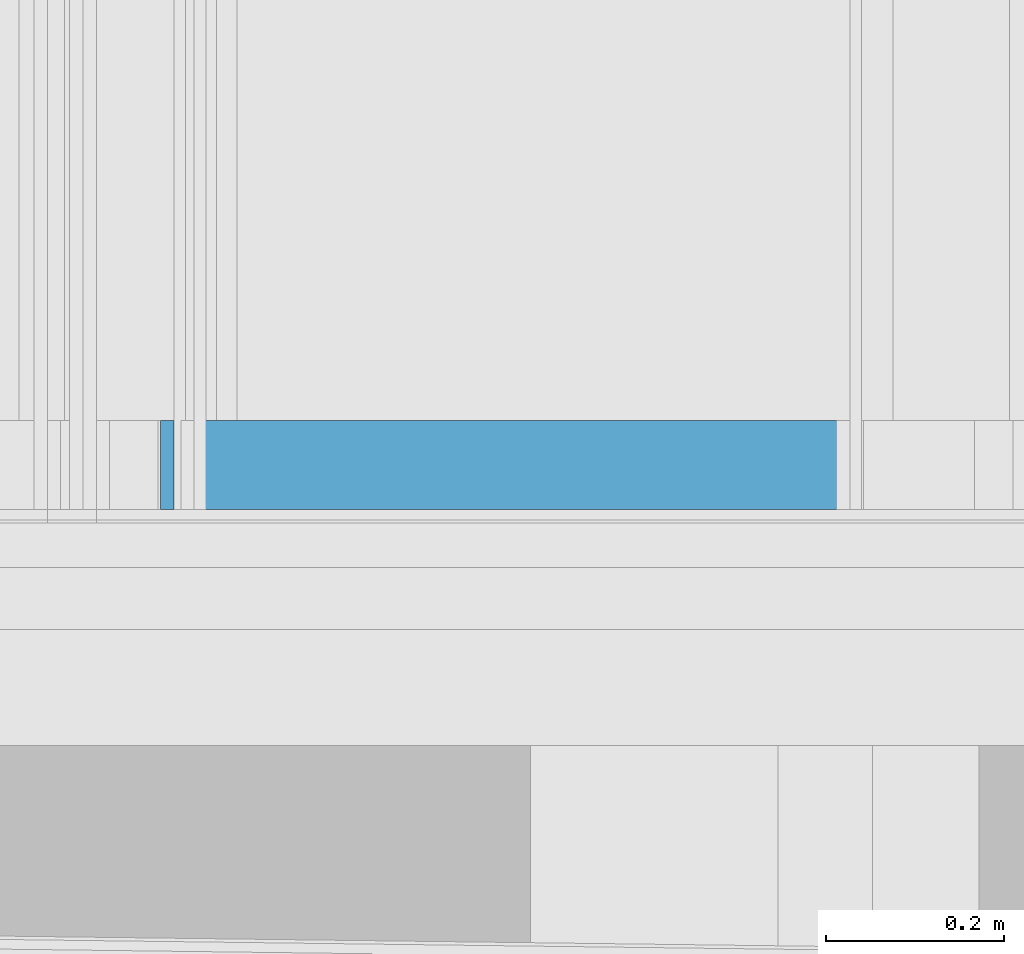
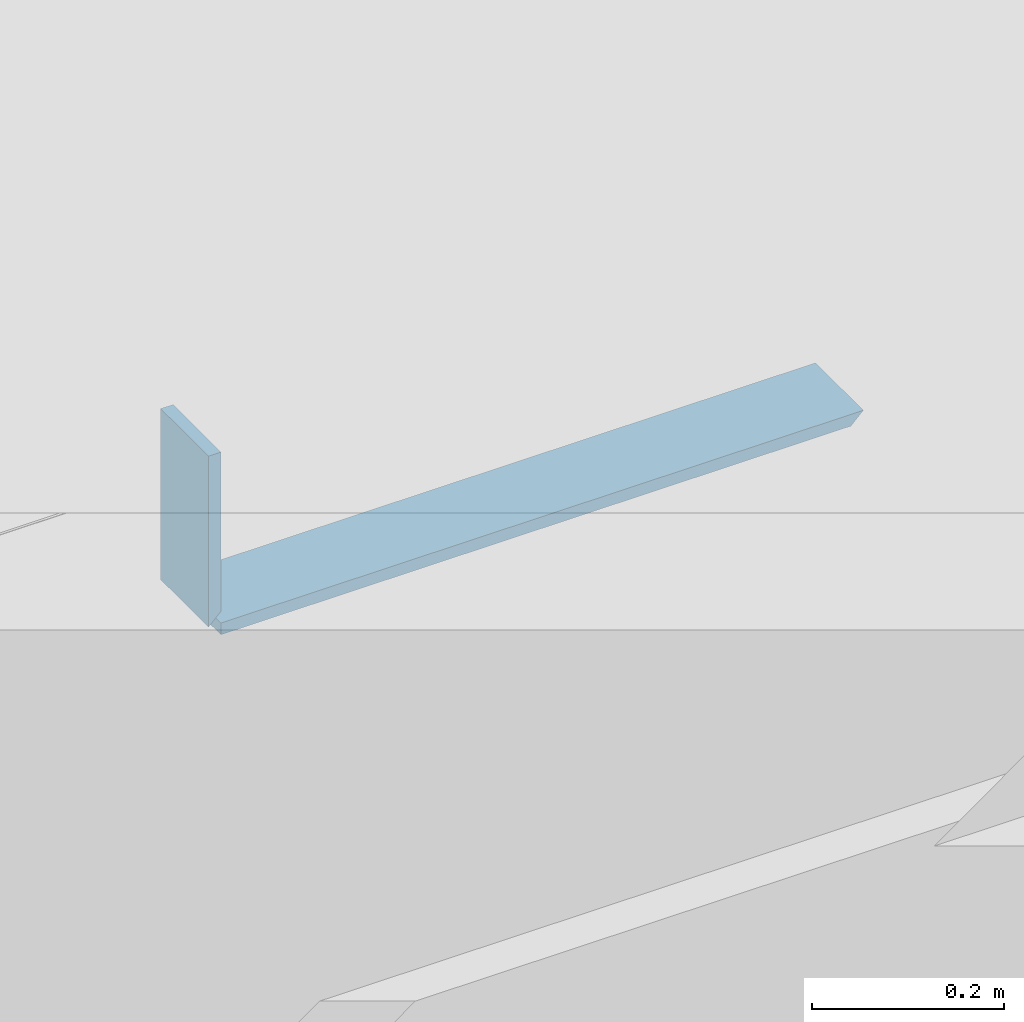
# One storey, part 177 of 583: 2 building element parts, 2 elements without a shape of their own.
"""IFC2X3 building model written with IfcOpenShell, lengths in metres."""

from ifc_helpers import new_model, entity, si_unit, converted_unit, derived_unit, money_unit, direction, frame, origin_with_axes, place, context, subcontext, project, spatial, polyline, outline, extrude, material, type_object, element, aggregate, save


model = new_model("IFC2X3")

# Units and contexts
model_context = context("Model", 3, precision=1e-05, world=origin_with_axes(), true_north=direction((0.0, 1.0)))
body_context = subcontext(model_context, "Body", "Model", "MODEL_VIEW", scale=1.0)
ifc_project = project(units=[si_unit("LENGTHUNIT", "METRE"), si_unit("AREAUNIT", "SQUARE_METRE"), si_unit("VOLUMEUNIT", "CUBIC_METRE"), si_unit("ABSORBEDDOSEUNIT", "GRAY"), si_unit("AMOUNTOFSUBSTANCEUNIT", "MOLE"), si_unit("DOSEEQUIVALENTUNIT", "SIEVERT"), si_unit("ELECTRICCAPACITANCEUNIT", "FARAD"), si_unit("ELECTRICCHARGEUNIT", "COULOMB"), si_unit("ELECTRICCONDUCTANCEUNIT", "SIEMENS"), si_unit("ELECTRICCURRENTUNIT", "AMPERE"), si_unit("ELECTRICRESISTANCEUNIT", "OHM"), si_unit("ELECTRICVOLTAGEUNIT", "VOLT"), si_unit("ENERGYUNIT", "JOULE"), si_unit("FORCEUNIT", "NEWTON"), si_unit("FREQUENCYUNIT", "HERTZ"), si_unit("ILLUMINANCEUNIT", "LUX"), si_unit("INDUCTANCEUNIT", "HENRY"), si_unit("LUMINOUSFLUXUNIT", "LUMEN"), si_unit("LUMINOUSINTENSITYUNIT", "CANDELA"), si_unit("MAGNETICFLUXDENSITYUNIT", "TESLA"), si_unit("MAGNETICFLUXUNIT", "WEBER"), si_unit("MASSUNIT", "GRAM"), converted_unit("PLANEANGLEUNIT", "degree", entity("IfcReal", 0.0174532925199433), si_unit("PLANEANGLEUNIT", "RADIAN"), dimensions=[0, 0, 0, 0, 0, 0, 0]), si_unit("POWERUNIT", "WATT"), si_unit("PRESSUREUNIT", "PASCAL"), si_unit("RADIOACTIVITYUNIT", "BECQUEREL"), si_unit("SOLIDANGLEUNIT", "STERADIAN"), si_unit("THERMODYNAMICTEMPERATUREUNIT", "KELVIN"), si_unit("TIMEUNIT", "SECOND"), derived_unit("ACCELERATIONUNIT", [(si_unit("LENGTHUNIT", "METRE"), 1), (si_unit("TIMEUNIT", "SECOND"), -2)]), derived_unit("ANGULARVELOCITYUNIT", [(converted_unit("PLANEANGLEUNIT", "degree", entity("IfcReal", 0.0174532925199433), si_unit("PLANEANGLEUNIT", "RADIAN"), dimensions=[0, 0, 0, 0, 0, 0, 0]), 1), (si_unit("TIMEUNIT", "SECOND"), -1)]), derived_unit("CURVATUREUNIT", [(converted_unit("PLANEANGLEUNIT", "degree", entity("IfcReal", 0.0174532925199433), si_unit("PLANEANGLEUNIT", "RADIAN"), dimensions=[0, 0, 0, 0, 0, 0, 0]), 1), (si_unit("LENGTHUNIT", "METRE"), -1)]), derived_unit("DYNAMICVISCOSITYUNIT", [(si_unit("PRESSUREUNIT", "PASCAL"), 1), (si_unit("TIMEUNIT", "SECOND"), 1)]), derived_unit("HEATFLUXDENSITYUNIT", [(si_unit("POWERUNIT", "WATT"), 1), (si_unit("LENGTHUNIT", "METRE"), -2)]), derived_unit("HEATINGVALUEUNIT", [(si_unit("ENERGYUNIT", "JOULE"), 1), (si_unit("MASSUNIT", "GRAM"), -1)]), derived_unit("INTEGERCOUNTRATEUNIT", [(si_unit("TIMEUNIT", "SECOND"), -1)]), derived_unit("IONCONCENTRATIONUNIT", [(si_unit("MASSUNIT", "GRAM"), 1), (si_unit("VOLUMEUNIT", "CUBIC_METRE"), -1)]), derived_unit("ISOTHERMALMOISTURECAPACITYUNIT", [(si_unit("VOLUMEUNIT", "CUBIC_METRE"), 1), (si_unit("MASSUNIT", "GRAM"), -1)]), derived_unit("KINEMATICVISCOSITYUNIT", [(si_unit("AREAUNIT", "SQUARE_METRE"), 1), (si_unit("TIMEUNIT", "SECOND"), -1)]), derived_unit("LINEARFORCEUNIT", [(si_unit("FORCEUNIT", "NEWTON"), 1), (si_unit("LENGTHUNIT", "METRE"), -1)]), derived_unit("LINEARMOMENTUNIT", [(si_unit("FORCEUNIT", "NEWTON"), 1), (si_unit("LENGTHUNIT", "METRE"), -1)]), derived_unit("LINEARSTIFFNESSUNIT", [(si_unit("FORCEUNIT", "NEWTON"), 1), (si_unit("LENGTHUNIT", "METRE"), -1)]), derived_unit("LINEARVELOCITYUNIT", [(si_unit("LENGTHUNIT", "METRE"), 1), (si_unit("TIMEUNIT", "SECOND"), -1)]), derived_unit("LUMINOUSINTENSITYDISTRIBUTIONUNIT", [(si_unit("LUMINOUSINTENSITYUNIT", "CANDELA"), 1), (si_unit("LUMINOUSFLUXUNIT", "LUMEN"), -1)]), derived_unit("MASSDENSITYUNIT", [(si_unit("MASSUNIT", "GRAM"), 1), (si_unit("VOLUMEUNIT", "CUBIC_METRE"), -1)]), derived_unit("MASSFLOWRATEUNIT", [(si_unit("MASSUNIT", "GRAM"), 1), (si_unit("TIMEUNIT", "SECOND"), -1)]), derived_unit("MASSPERLENGTHUNIT", [(si_unit("MASSUNIT", "GRAM"), 1), (si_unit("LENGTHUNIT", "METRE"), -1)]), derived_unit("MODULUSOFELASTICITYUNIT", [(si_unit("FORCEUNIT", "NEWTON"), 1), (si_unit("AREAUNIT", "SQUARE_METRE"), -1)]), derived_unit("MODULUSOFLINEARSUBGRADEREACTIONUNIT", [(si_unit("FORCEUNIT", "NEWTON"), 1), (si_unit("LENGTHUNIT", "METRE"), -2)]), derived_unit("MODULUSOFROTATIONALSUBGRADEREACTIONUNIT", [(si_unit("FORCEUNIT", "NEWTON"), 1), (si_unit("LENGTHUNIT", "METRE"), 1)]), derived_unit("MODULUSOFSUBGRADEREACTIONUNIT", [(si_unit("FORCEUNIT", "NEWTON"), 1), (si_unit("VOLUMEUNIT", "CUBIC_METRE"), -1)]), derived_unit("MOISTUREDIFFUSIVITYUNIT", [(si_unit("VOLUMEUNIT", "CUBIC_METRE"), 1), (si_unit("TIMEUNIT", "SECOND"), -1)]), derived_unit("MOLECULARWEIGHTUNIT", [(si_unit("MASSUNIT", "GRAM"), 1), (si_unit("AMOUNTOFSUBSTANCEUNIT", "MOLE"), -1)]), derived_unit("PLANARFORCEUNIT", [(si_unit("FORCEUNIT", "NEWTON"), 1), (si_unit("LENGTHUNIT", "METRE"), -2)]), derived_unit("ROTATIONALFREQUENCYUNIT", [(si_unit("TIMEUNIT", "SECOND"), -1)]), derived_unit("ROTATIONALMASSUNIT", [(si_unit("MASSUNIT", "GRAM"), 1), (si_unit("LENGTHUNIT", "METRE"), 2)]), derived_unit("ROTATIONALSTIFFNESSUNIT", [(si_unit("FORCEUNIT", "NEWTON"), 1), (si_unit("LENGTHUNIT", "METRE"), 1), (converted_unit("PLANEANGLEUNIT", "degree", entity("IfcReal", 0.0174532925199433), si_unit("PLANEANGLEUNIT", "RADIAN"), dimensions=[0, 0, 0, 0, 0, 0, 0]), -1)]), derived_unit("SECTIONAREAINTEGRALUNIT", [(si_unit("LENGTHUNIT", "METRE"), 5)]), derived_unit("SECTIONMODULUSUNIT", [(si_unit("LENGTHUNIT", "METRE"), 3)]), derived_unit("SHEARMODULUSUNIT", [(si_unit("FORCEUNIT", "NEWTON"), 1), (si_unit("AREAUNIT", "SQUARE_METRE"), -1)]), derived_unit("SOUNDPOWERUNIT", [(si_unit("ENERGYUNIT", "JOULE"), 1), (si_unit("TIMEUNIT", "SECOND"), -1)]), derived_unit("SPECIFICHEATCAPACITYUNIT", [(si_unit("FORCEUNIT", "NEWTON"), 1), (si_unit("MASSUNIT", "GRAM"), -1), (si_unit("THERMODYNAMICTEMPERATUREUNIT", "KELVIN"), -1)]), derived_unit("TEMPERATUREGRADIENTUNIT", [(si_unit("THERMODYNAMICTEMPERATUREUNIT", "KELVIN"), 1), (si_unit("LENGTHUNIT", "METRE"), -1)]), derived_unit("THERMALADMITTANCEUNIT", [(si_unit("POWERUNIT", "WATT"), 1), (si_unit("AREAUNIT", "SQUARE_METRE"), -1), (si_unit("THERMODYNAMICTEMPERATUREUNIT", "KELVIN"), -1)]), derived_unit("THERMALCONDUCTANCEUNIT", [(si_unit("POWERUNIT", "WATT"), 1), (si_unit("LENGTHUNIT", "METRE"), -1), (si_unit("THERMODYNAMICTEMPERATUREUNIT", "KELVIN"), -1)]), derived_unit("THERMALEXPANSIONCOEFFICIENTUNIT", [(si_unit("THERMODYNAMICTEMPERATUREUNIT", "KELVIN"), -1)]), derived_unit("THERMALRESISTANCEUNIT", [(si_unit("AREAUNIT", "SQUARE_METRE"), 1), (si_unit("POWERUNIT", "WATT"), -1)]), derived_unit("THERMALTRANSMITTANCEUNIT", [(si_unit("POWERUNIT", "WATT"), 1), (si_unit("AREAUNIT", "SQUARE_METRE"), -1), (si_unit("THERMODYNAMICTEMPERATUREUNIT", "KELVIN"), -1)]), derived_unit("TORQUEUNIT", [(si_unit("FORCEUNIT", "NEWTON"), 1), (si_unit("LENGTHUNIT", "METRE"), 1)]), derived_unit("VAPORPERMEABILITYUNIT", [(si_unit("MASSUNIT", "GRAM"), 1), (si_unit("TIMEUNIT", "SECOND"), -1)]), derived_unit("VOLUMETRICFLOWRATEUNIT", [(si_unit("VOLUMEUNIT", "CUBIC_METRE"), 1), (si_unit("TIMEUNIT", "SECOND"), -1)]), derived_unit("WARPINGCONSTANTUNIT", [(si_unit("LENGTHUNIT", "METRE"), 6)]), derived_unit("WARPINGMOMENTUNIT", [(si_unit("FORCEUNIT", "NEWTON"), 1), (si_unit("LENGTHUNIT", "METRE"), 2)]), money_unit("GBP")], contexts=[model_context])

# Site, building, storey
site_placement = place(None, origin_with_axes())
site = spatial("IfcSite", under=ifc_project, at=site_placement, Name="Site", CompositionType="ELEMENT")
building_placement = place(site_placement, origin_with_axes())
building = spatial("IfcBuilding", under=site, at=building_placement, Name="Building01", CompositionType="ELEMENT")
storey_placement = place(building_placement, frame((0.0, 0.0, 20.78), z_axis=(0.0, 0.0, 1.0), x_axis=(1.0, 0.0, 0.0)))
storey = spatial("IfcBuildingStorey", under=building, at=storey_placement, Name="RL", CompositionType="ELEMENT", Elevation=20.78)

# Wall, building element part
wall_type = type_object("IfcWallType", Name="SHE_A-Walls_Type06d_ExternalWallInsulation_48mm", PredefinedType="NOTDEFINED")
wall_1_placement = place(storey_placement, frame((5.34018, 5.15, 5.93), z_axis=(0.0, 1.0, 0.0), x_axis=(0.0, 0.0, 1.0)))
wall_1 = element("IfcWall", 1, at=wall_1_placement, inside=storey, type_object=wall_type, Name="6D", ObjectType="SHE_A-Walls_Type06d_ExternalWallInsulation_48mm")
ifc_material = material(Name="A_BSUK_Walls_Timber")
building_element_part_1_placement = place(wall_1_placement, origin_with_axes())
building_element_part_1 = element("IfcBuildingElementPart", 2, at=building_element_part_1_placement, material=ifc_material, Name="2", context=body_context, shape_type="SweptSolid", body=[
    extrude(outline(polyline([(-0.033, -0.048), (-0.048, -0.063), (0.17, -0.063), (0.17, -0.048), (-0.033, -0.048)])), frame((0.0, 0.0, 0.015), z_axis=(0.0, 0.0, 1.0), x_axis=(1.0, 0.0, 0.0)), (0.0, 0.0, 1.0), 0.1),
])
aggregate(wall_1, [building_element_part_1])

wall_2_placement = place(storey_placement, frame((5.30418, 5.15, 5.93), z_axis=(0.0, 1.0, 0.0), x_axis=(1.0, 0.0, 0.0)))
wall_2 = element("IfcWall", 3, at=wall_2_placement, inside=storey, type_object=wall_type, Name="6D", ObjectType="SHE_A-Walls_Type06d_ExternalWallInsulation_48mm")
building_element_part_2_placement = place(wall_2_placement, origin_with_axes())
building_element_part_2 = element("IfcBuildingElementPart", 4, at=building_element_part_2_placement, material=ifc_material, Name="2", context=body_context, shape_type="SweptSolid", body=[
    extrude(outline(polyline([(0.74782, 0.063), (-0.012, 0.063), (-0.012, 0.048), (0.76282, 0.048), (0.74782, 0.063)])), frame((0.0, 0.0, 0.015), z_axis=(0.0, 0.0, 1.0), x_axis=(1.0, 0.0, 0.0)), (0.0, 0.0, 1.0), 0.1),
])
aggregate(wall_2, [building_element_part_2])

save(model, "model.ifc")
